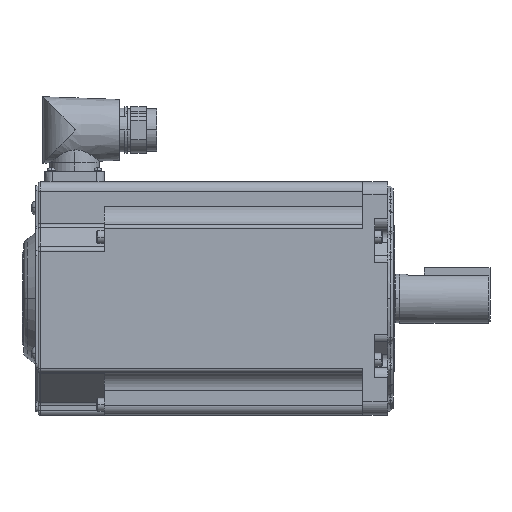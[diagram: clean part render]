
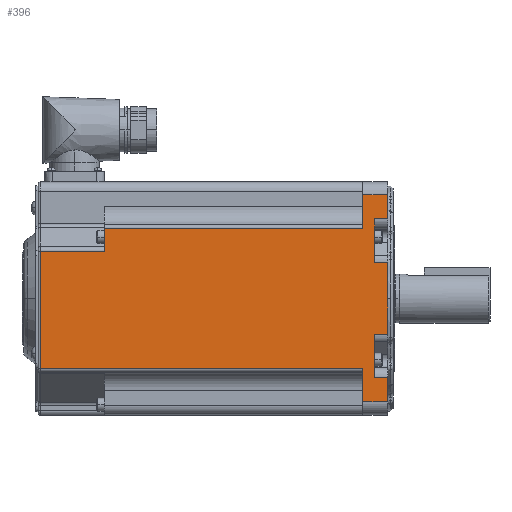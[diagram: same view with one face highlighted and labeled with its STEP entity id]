
A CAD part, top view. The second image highlights one B-rep face of the part: STEP entity #396.
In plain terms, the highlighted planar face has unit normal (0, 0, 1) as drawn and (0, 0, -1) by its records, which use the part's own axes.
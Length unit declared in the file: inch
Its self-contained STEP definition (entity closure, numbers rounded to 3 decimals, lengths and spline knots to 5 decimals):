
#396 = ADVANCED_FACE ( 'NONE', ( #2784 ), #13622, .F. ) ;
#2127 = EDGE_CURVE ( 'NONE', #4336, #4337, #29042, .T. ) ;
#2170 = EDGE_CURVE ( 'NONE', #4373, #4374, #29171, .T. ) ;
#2191 = EDGE_CURVE ( 'NONE', #4386, #4387, #29234, .T. ) ;
#2274 = EDGE_CURVE ( 'NONE', #4466, #4468, #29483, .T. ) ;
#2275 = EDGE_CURVE ( 'NONE', #4466, #4467, #29486, .T. ) ;
#2276 = EDGE_CURVE ( 'NONE', #4468, #4469, #29489, .T. ) ;
#2277 = EDGE_CURVE ( 'NONE', #4469, #4337, #29492, .T. ) ;
#2278 = EDGE_CURVE ( 'NONE', #4336, #4470, #29495, .T. ) ;
#2279 = EDGE_CURVE ( 'NONE', #4470, #4471, #29498, .T. ) ;
#2280 = EDGE_CURVE ( 'NONE', #4471, #4472, #29501, .T. ) ;
#2281 = EDGE_CURVE ( 'NONE', #4472, #4473, #29504, .T. ) ;
#2282 = EDGE_CURVE ( 'NONE', #4473, #4474, #29507, .T. ) ;
#2283 = EDGE_CURVE ( 'NONE', #4767, #4474, #29510, .T. ) ;
#2284 = EDGE_CURVE ( 'NONE', #4767, #4387, #29513, .T. ) ;
#2285 = EDGE_CURVE ( 'NONE', #4386, #4768, #29516, .T. ) ;
#2286 = EDGE_CURVE ( 'NONE', #4769, #4768, #29519, .T. ) ;
#2287 = EDGE_CURVE ( 'NONE', #4769, #4374, #29522, .T. ) ;
#2288 = EDGE_CURVE ( 'NONE', #4373, #4467, #29525, .T. ) ;
#2784 = FACE_OUTER_BOUND ( 'NONE', #4477, .T. ) ;
#2789 = AXIS2_PLACEMENT_3D ( 'NONE', #13623, #13624, #13625 ) ;
#4336 = VERTEX_POINT ( 'NONE', #34223 ) ;
#4337 = VERTEX_POINT ( 'NONE', #34224 ) ;
#4373 = VERTEX_POINT ( 'NONE', #34260 ) ;
#4374 = VERTEX_POINT ( 'NONE', #34261 ) ;
#4386 = VERTEX_POINT ( 'NONE', #34273 ) ;
#4387 = VERTEX_POINT ( 'NONE', #34274 ) ;
#4466 = VERTEX_POINT ( 'NONE', #34353 ) ;
#4467 = VERTEX_POINT ( 'NONE', #34354 ) ;
#4468 = VERTEX_POINT ( 'NONE', #34355 ) ;
#4469 = VERTEX_POINT ( 'NONE', #34356 ) ;
#4470 = VERTEX_POINT ( 'NONE', #34357 ) ;
#4471 = VERTEX_POINT ( 'NONE', #34358 ) ;
#4472 = VERTEX_POINT ( 'NONE', #34359 ) ;
#4473 = VERTEX_POINT ( 'NONE', #34360 ) ;
#4474 = VERTEX_POINT ( 'NONE', #34361 ) ;
#4477 = EDGE_LOOP ( 'NONE', ( #8753, #8756, #8755, #8757, #8758, #8759, #8761, #8760, #8762, #8763, #8764, #8765, #8766, #8767, #8769, #8768, #8770, #8771 ) ) ;
#4767 = VERTEX_POINT ( 'NONE', #34362 ) ;
#4768 = VERTEX_POINT ( 'NONE', #34363 ) ;
#4769 = VERTEX_POINT ( 'NONE', #34364 ) ;
#8753 = ORIENTED_EDGE ( 'NONE', *, *, #2275, .F. ) ;
#8755 = ORIENTED_EDGE ( 'NONE', *, *, #2276, .T. ) ;
#8756 = ORIENTED_EDGE ( 'NONE', *, *, #2274, .T. ) ;
#8757 = ORIENTED_EDGE ( 'NONE', *, *, #2277, .T. ) ;
#8758 = ORIENTED_EDGE ( 'NONE', *, *, #2127, .F. ) ;
#8759 = ORIENTED_EDGE ( 'NONE', *, *, #2278, .T. ) ;
#8760 = ORIENTED_EDGE ( 'NONE', *, *, #2280, .T. ) ;
#8761 = ORIENTED_EDGE ( 'NONE', *, *, #2279, .T. ) ;
#8762 = ORIENTED_EDGE ( 'NONE', *, *, #2281, .T. ) ;
#8763 = ORIENTED_EDGE ( 'NONE', *, *, #2282, .T. ) ;
#8764 = ORIENTED_EDGE ( 'NONE', *, *, #2283, .F. ) ;
#8765 = ORIENTED_EDGE ( 'NONE', *, *, #2284, .T. ) ;
#8766 = ORIENTED_EDGE ( 'NONE', *, *, #2191, .F. ) ;
#8767 = ORIENTED_EDGE ( 'NONE', *, *, #2285, .T. ) ;
#8768 = ORIENTED_EDGE ( 'NONE', *, *, #2287, .T. ) ;
#8769 = ORIENTED_EDGE ( 'NONE', *, *, #2286, .F. ) ;
#8770 = ORIENTED_EDGE ( 'NONE', *, *, #2170, .F. ) ;
#8771 = ORIENTED_EDGE ( 'NONE', *, *, #2288, .T. ) ;
#13622 = PLANE ( 'NONE',  #2789 ) ;
#13623 = CARTESIAN_POINT ( 'NONE',  ( -5.32, 1.415, -2.24 ) ) ;
#13624 = DIRECTION ( 'NONE',  ( 0., 0., 1. ) ) ;
#13625 = DIRECTION ( 'NONE',  ( 0., -1., 0. ) ) ;
#22010 = VECTOR ( 'NONE', #29044, 39.37008 ) ;
#22053 = VECTOR ( 'NONE', #29173, 39.37008 ) ;
#22074 = VECTOR ( 'NONE', #29236, 39.37008 ) ;
#22153 = VECTOR ( 'NONE', #29485, 39.37008 ) ;
#22154 = VECTOR ( 'NONE', #29488, 39.37008 ) ;
#22155 = VECTOR ( 'NONE', #29491, 39.37008 ) ;
#22156 = VECTOR ( 'NONE', #29494, 39.37008 ) ;
#22157 = VECTOR ( 'NONE', #29497, 39.37008 ) ;
#22158 = VECTOR ( 'NONE', #29500, 39.37008 ) ;
#22159 = VECTOR ( 'NONE', #29503, 39.37008 ) ;
#22160 = VECTOR ( 'NONE', #29506, 39.37008 ) ;
#22161 = VECTOR ( 'NONE', #29509, 39.37008 ) ;
#22162 = VECTOR ( 'NONE', #29512, 39.37008 ) ;
#22163 = VECTOR ( 'NONE', #29515, 39.37008 ) ;
#22164 = VECTOR ( 'NONE', #29518, 39.37008 ) ;
#22165 = VECTOR ( 'NONE', #29521, 39.37008 ) ;
#22166 = VECTOR ( 'NONE', #29524, 39.37008 ) ;
#22167 = VECTOR ( 'NONE', #29527, 39.37008 ) ;
#29042 = LINE ( 'NONE', #29043, #22010 ) ;
#29043 = CARTESIAN_POINT ( 'NONE',  ( -5.445, -2.24, -2.24 ) ) ;
#29044 = DIRECTION ( 'NONE',  ( 0., -1., 0. ) ) ;
#29171 = LINE ( 'NONE', #29172, #22053 ) ;
#29172 = CARTESIAN_POINT ( 'NONE',  ( -0.25, -0.7742, -2.24 ) ) ;
#29173 = DIRECTION ( 'NONE',  ( 0., 1., 0. ) ) ;
#29234 = LINE ( 'NONE', #29235, #22074 ) ;
#29235 = CARTESIAN_POINT ( 'NONE',  ( -0.25, 0.7742, -2.24 ) ) ;
#29236 = DIRECTION ( 'NONE',  ( 0., 1., 0. ) ) ;
#29483 = LINE ( 'NONE', #29484, #22153 ) ;
#29484 = CARTESIAN_POINT ( 'NONE',  ( -5.32, -1.99, -2.24 ) ) ;
#29485 = DIRECTION ( 'NONE',  ( -1., 0., 0. ) ) ;
#29486 = LINE ( 'NONE', #29487, #22154 ) ;
#29487 = CARTESIAN_POINT ( 'NONE',  ( 0., -2.24, -2.24 ) ) ;
#29488 = DIRECTION ( 'NONE',  ( 0., 1., 0. ) ) ;
#29489 = LINE ( 'NONE', #29490, #22155 ) ;
#29490 = CARTESIAN_POINT ( 'NONE',  ( -0.48, -2.24, -2.24 ) ) ;
#29491 = DIRECTION ( 'NONE',  ( 0., 1., 0. ) ) ;
#29492 = LINE ( 'NONE', #29493, #22156 ) ;
#29493 = CARTESIAN_POINT ( 'NONE',  ( -5.32, -1.3525, -2.24 ) ) ;
#29494 = DIRECTION ( 'NONE',  ( -1., 0., 0. ) ) ;
#29495 = LINE ( 'NONE', #29496, #22157 ) ;
#29496 = CARTESIAN_POINT ( 'NONE',  ( -5.32, -0.91, -2.24 ) ) ;
#29497 = DIRECTION ( 'NONE',  ( -1., 0., 0. ) ) ;
#29498 = LINE ( 'NONE', #29499, #22158 ) ;
#29499 = CARTESIAN_POINT ( 'NONE',  ( -6.68, 1.3525, -2.24 ) ) ;
#29500 = DIRECTION ( 'NONE',  ( 0., 1., 0. ) ) ;
#29501 = LINE ( 'NONE', #29502, #22159 ) ;
#29502 = CARTESIAN_POINT ( 'NONE',  ( -5.32, 1.3525, -2.24 ) ) ;
#29503 = DIRECTION ( 'NONE',  ( 1., 0., 0. ) ) ;
#29504 = LINE ( 'NONE', #29505, #22160 ) ;
#29505 = CARTESIAN_POINT ( 'NONE',  ( -0.48, -2.24, -2.24 ) ) ;
#29506 = DIRECTION ( 'NONE',  ( 0., 1., 0. ) ) ;
#29507 = LINE ( 'NONE', #29508, #22161 ) ;
#29508 = CARTESIAN_POINT ( 'NONE',  ( -5.32, 1.99, -2.24 ) ) ;
#29509 = DIRECTION ( 'NONE',  ( 1., 0., 0. ) ) ;
#29510 = LINE ( 'NONE', #29511, #22162 ) ;
#29511 = CARTESIAN_POINT ( 'NONE',  ( 0., -2.24, -2.24 ) ) ;
#29512 = DIRECTION ( 'NONE',  ( 0., 1., 0. ) ) ;
#29513 = LINE ( 'NONE', #29514, #22163 ) ;
#29514 = CARTESIAN_POINT ( 'NONE',  ( -5.32, 1.52798, -2.24 ) ) ;
#29515 = DIRECTION ( 'NONE',  ( -1., 0., 0. ) ) ;
#29516 = LINE ( 'NONE', #29517, #22164 ) ;
#29517 = CARTESIAN_POINT ( 'NONE',  ( -5.32, 0.69135, -2.24 ) ) ;
#29518 = DIRECTION ( 'NONE',  ( 1., 0., 0. ) ) ;
#29519 = LINE ( 'NONE', #29520, #22165 ) ;
#29520 = CARTESIAN_POINT ( 'NONE',  ( 0., -2.24, -2.24 ) ) ;
#29521 = DIRECTION ( 'NONE',  ( 0., 1., 0. ) ) ;
#29522 = LINE ( 'NONE', #29523, #22166 ) ;
#29523 = CARTESIAN_POINT ( 'NONE',  ( -5.32, -0.69135, -2.24 ) ) ;
#29524 = DIRECTION ( 'NONE',  ( -1., 0., 0. ) ) ;
#29525 = LINE ( 'NONE', #29526, #22167 ) ;
#29526 = CARTESIAN_POINT ( 'NONE',  ( -5.32, -1.52798, -2.24 ) ) ;
#29527 = DIRECTION ( 'NONE',  ( 1., 0., 0. ) ) ;
#34223 = CARTESIAN_POINT ( 'NONE',  ( -5.445, -0.91, -2.24 ) ) ;
#34224 = CARTESIAN_POINT ( 'NONE',  ( -5.445, -1.3525, -2.24 ) ) ;
#34260 = CARTESIAN_POINT ( 'NONE',  ( -0.25, -1.52798, -2.24 ) ) ;
#34261 = CARTESIAN_POINT ( 'NONE',  ( -0.25, -0.69135, -2.24 ) ) ;
#34273 = CARTESIAN_POINT ( 'NONE',  ( -0.25, 0.69135, -2.24 ) ) ;
#34274 = CARTESIAN_POINT ( 'NONE',  ( -0.25, 1.52798, -2.24 ) ) ;
#34353 = CARTESIAN_POINT ( 'NONE',  ( 0., -1.99, -2.24 ) ) ;
#34354 = CARTESIAN_POINT ( 'NONE',  ( 0., -1.52798, -2.24 ) ) ;
#34355 = CARTESIAN_POINT ( 'NONE',  ( -0.48, -1.99, -2.24 ) ) ;
#34356 = CARTESIAN_POINT ( 'NONE',  ( -0.48, -1.3525, -2.24 ) ) ;
#34357 = CARTESIAN_POINT ( 'NONE',  ( -6.68, -0.91, -2.24 ) ) ;
#34358 = CARTESIAN_POINT ( 'NONE',  ( -6.68, 1.3525, -2.24 ) ) ;
#34359 = CARTESIAN_POINT ( 'NONE',  ( -0.48, 1.3525, -2.24 ) ) ;
#34360 = CARTESIAN_POINT ( 'NONE',  ( -0.48, 1.99, -2.24 ) ) ;
#34361 = CARTESIAN_POINT ( 'NONE',  ( 0., 1.99, -2.24 ) ) ;
#34362 = CARTESIAN_POINT ( 'NONE',  ( 0., 1.52798, -2.24 ) ) ;
#34363 = CARTESIAN_POINT ( 'NONE',  ( 0., 0.69135, -2.24 ) ) ;
#34364 = CARTESIAN_POINT ( 'NONE',  ( 0., -0.69135, -2.24 ) ) ;
